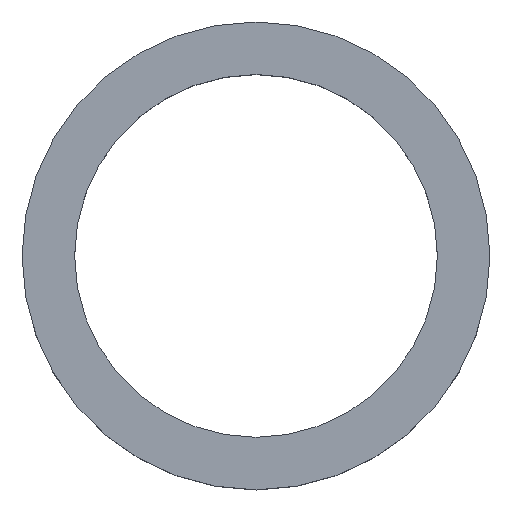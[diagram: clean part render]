
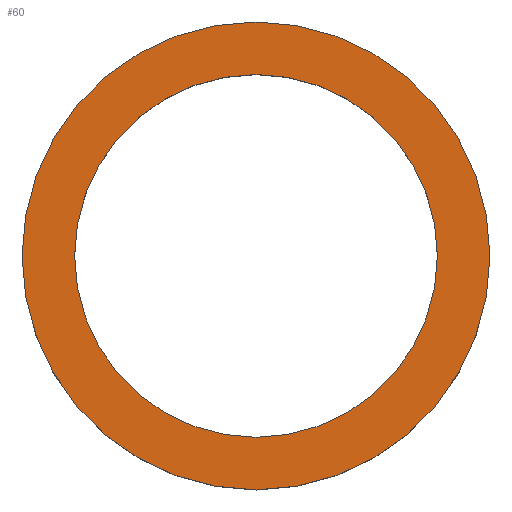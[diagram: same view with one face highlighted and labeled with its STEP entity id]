
A CAD part, top view. The second image highlights one B-rep face of the part: STEP entity #60.
In plain terms, the highlighted planar face has unit normal (0, 0, 1).
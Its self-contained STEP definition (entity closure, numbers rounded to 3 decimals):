
#13=PLANE($,#71);
#18=FACE_BOUND($,#28,.T.);
#19=FACE_BOUND($,#29,.T.);
#28=EDGE_LOOP($,(#48));
#29=EDGE_LOOP($,(#49));
#30=CIRCLE($,#65,14.5);
#32=CIRCLE($,#68,18.7);
#34=VERTEX_POINT($,#92);
#36=VERTEX_POINT($,#97);
#38=EDGE_CURVE($,#34,#34,#30,.T.);
#40=EDGE_CURVE($,#36,#36,#32,.T.);
#48=ORIENTED_EDGE($,*,*,#38,.T.);
#49=ORIENTED_EDGE($,*,*,#40,.T.);
#60=ADVANCED_FACE($,(#18,#19),#13,.T.);
#65=AXIS2_PLACEMENT_3D($,#93,#76,#77);
#68=AXIS2_PLACEMENT_3D($,#98,#82,#83);
#71=AXIS2_PLACEMENT_3D($,#102,#88,#89);
#76=DIRECTION('center_axis',(0.,0.,-1.));
#77=DIRECTION('ref_axis',(-1.,0.,0.));
#82=DIRECTION('center_axis',(0.,0.,1.));
#83=DIRECTION('ref_axis',(-1.,0.,0.));
#88=DIRECTION('center_axis',(0.,0.,1.));
#89=DIRECTION('ref_axis',(1.,0.,0.));
#92=CARTESIAN_POINT('',(14.5,0.,8.));
#93=CARTESIAN_POINT('Origin',(0.,0.,8.));
#97=CARTESIAN_POINT('',(18.7,0.,8.));
#98=CARTESIAN_POINT('Origin',(0.,0.,8.));
#102=CARTESIAN_POINT('Origin',(0.,0.,8.));
